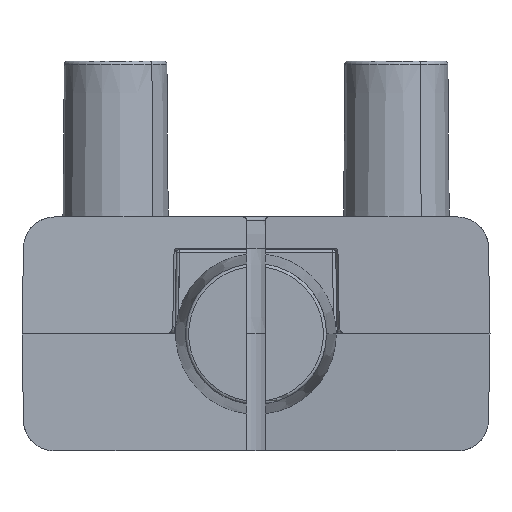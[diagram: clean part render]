
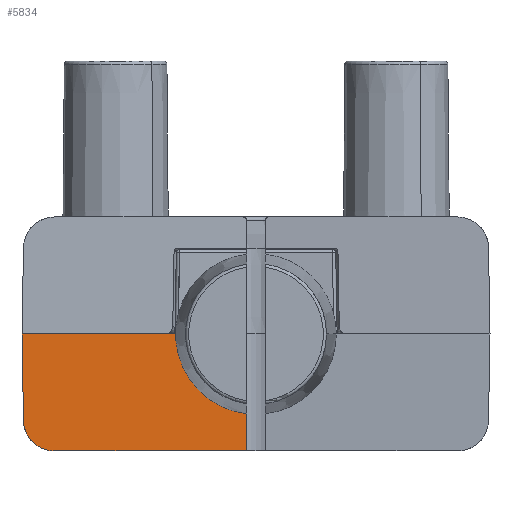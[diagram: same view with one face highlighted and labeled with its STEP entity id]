
A CAD part, front view. The second image highlights one B-rep face of the part: STEP entity #5834.
In plain terms, the highlighted planar face has unit normal (0.067, -0.998, -0.018).
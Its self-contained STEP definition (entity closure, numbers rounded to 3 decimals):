
#186 = VECTOR ( 'NONE', #6421, 1000. ) ;
#465 = VERTEX_POINT ( 'NONE', #7982 ) ;
#690 = ORIENTED_EDGE ( 'NONE', *, *, #2666, .T. ) ;
#724 = VERTEX_POINT ( 'NONE', #8261 ) ;
#756 = EDGE_CURVE ( 'NONE', #5243, #7019, #5901, .T. ) ;
#975 = EDGE_LOOP ( 'NONE', ( #4978, #8475, #2830, #7411, #5114, #6724, #690 ) ) ;
#1378 = FACE_OUTER_BOUND ( 'NONE', #975, .T. ) ;
#1471 = EDGE_CURVE ( 'NONE', #5243, #724, #4717, .T. ) ;
#1550 = EDGE_CURVE ( 'NONE', #8496, #465, #3993, .T. ) ;
#1586 = VECTOR ( 'NONE', #5265, 1000. ) ;
#1587 = PLANE ( 'NONE',  #8654 ) ;
#1643 = CARTESIAN_POINT ( 'NONE',  ( -4.611, -8.515, -2.427 ) ) ;
#1981 = LINE ( 'NONE', #6252, #186 ) ;
#2093 = VERTEX_POINT ( 'NONE', #7079 ) ;
#2119 = LINE ( 'NONE', #3690, #3985 ) ;
#2269 = DIRECTION ( 'NONE',  ( 0., 0.017, -1. ) ) ;
#2456 = DIRECTION ( 'NONE',  ( 0.998, 0.067, 0. ) ) ;
#2666 = EDGE_CURVE ( 'NONE', #2093, #724, #2119, .T. ) ;
#2761 = CARTESIAN_POINT ( 'NONE',  ( -15., -9.25, 0. ) ) ;
#2830 = ORIENTED_EDGE ( 'NONE', *, *, #4461, .F. ) ;
#3504 = EDGE_CURVE ( 'NONE', #465, #8124, #5977, .T. ) ;
#3690 = CARTESIAN_POINT ( 'NONE',  ( -15.009, -9.119, -7.5 ) ) ;
#3855 = CARTESIAN_POINT ( 'NONE',  ( -14.903, -9.147, -5.535 ) ) ;
#3917 = CARTESIAN_POINT ( 'NONE',  ( -15., -9.25, 0. ) ) ;
#3985 = VECTOR ( 'NONE', #8505, 1000. ) ;
#3993 = LINE ( 'NONE', #2761, #7395 ) ;
#4257 = CARTESIAN_POINT ( 'NONE',  ( -4.613, -8.558, 0. ) ) ;
#4336 = CARTESIAN_POINT ( 'NONE',  ( -3.008, -8.376, -4.249 ) ) ;
#4461 = EDGE_CURVE ( 'NONE', #8124, #7019, #1981, .T. ) ;
#4717 = LINE ( 'NONE', #6290, #5993 ) ;
#4978 = ORIENTED_EDGE ( 'NONE', *, *, #1471, .F. ) ;
#5092 = DIRECTION ( 'NONE',  ( 0.067, -0.998, -0.017 ) ) ;
#5114 = ORIENTED_EDGE ( 'NONE', *, *, #1550, .F. ) ;
#5144 =( BOUNDED_CURVE ( )  B_SPLINE_CURVE ( 3, ( #7615, #7530, #6238, #7583 ),
 .UNSPECIFIED., .F., .F. ) 
 B_SPLINE_CURVE_WITH_KNOTS ( ( 4, 4 ),
 ( 0.274, 1.827 ),
 .UNSPECIFIED. ) 
 CURVE ( )  GEOMETRIC_REPRESENTATION_ITEM ( )  RATIONAL_B_SPLINE_CURVE ( ( 1., 0.809, 0.809, 1. ) ) 
 REPRESENTATION_ITEM ( '' )  );
#5167 = CARTESIAN_POINT ( 'NONE',  ( -4.987, -8.582, 0. ) ) ;
#5243 = VERTEX_POINT ( 'NONE', #8391 ) ;
#5265 = DIRECTION ( 'NONE',  ( 0.998, 0.067, 0. ) ) ;
#5834 = ADVANCED_FACE ( 'NONE', ( #1378 ), #1587, .T. ) ;
#5901 =( BOUNDED_CURVE ( )  B_SPLINE_CURVE ( 3, ( #7106, #4336, #1643, #8461 ),
 .UNSPECIFIED., .F., .F. ) 
 B_SPLINE_CURVE_WITH_KNOTS ( ( 4, 4 ),
 ( 1.442, 2.884 ),
 .UNSPECIFIED. ) 
 CURVE ( )  GEOMETRIC_REPRESENTATION_ITEM ( )  RATIONAL_B_SPLINE_CURVE ( ( 1., 0.834, 0.834, 1. ) ) 
 REPRESENTATION_ITEM ( '' )  );
#5977 = LINE ( 'NONE', #3917, #1586 ) ;
#5993 = VECTOR ( 'NONE', #2269, 1000. ) ;
#6238 = CARTESIAN_POINT ( 'NONE',  ( -14.059, -9.056, -7.5 ) ) ;
#6252 = CARTESIAN_POINT ( 'NONE',  ( -15., -9.25, 0. ) ) ;
#6290 = CARTESIAN_POINT ( 'NONE',  ( -0.6, -8.29, 0.017 ) ) ;
#6299 = CARTESIAN_POINT ( 'NONE',  ( -15., -9.25, 0. ) ) ;
#6421 = DIRECTION ( 'NONE',  ( 0.998, 0.067, 0. ) ) ;
#6724 = ORIENTED_EDGE ( 'NONE', *, *, #6945, .T. ) ;
#6945 = EDGE_CURVE ( 'NONE', #8496, #2093, #5144, .T. ) ;
#7019 = VERTEX_POINT ( 'NONE', #4257 ) ;
#7079 = CARTESIAN_POINT ( 'NONE',  ( -12.904, -8.979, -7.5 ) ) ;
#7106 = CARTESIAN_POINT ( 'NONE',  ( -0.6, -8.21, -4.559 ) ) ;
#7395 = VECTOR ( 'NONE', #8207, 1000. ) ;
#7411 = ORIENTED_EDGE ( 'NONE', *, *, #3504, .F. ) ;
#7530 = CARTESIAN_POINT ( 'NONE',  ( -14.883, -9.125, -6.69 ) ) ;
#7583 = CARTESIAN_POINT ( 'NONE',  ( -12.904, -8.979, -7.5 ) ) ;
#7615 = CARTESIAN_POINT ( 'NONE',  ( -14.903, -9.147, -5.535 ) ) ;
#7982 = CARTESIAN_POINT ( 'NONE',  ( -15., -9.25, 0. ) ) ;
#8124 = VERTEX_POINT ( 'NONE', #5167 ) ;
#8207 = DIRECTION ( 'NONE',  ( -0.017, -0.019, 1. ) ) ;
#8261 = CARTESIAN_POINT ( 'NONE',  ( -0.6, -8.159, -7.5 ) ) ;
#8391 = CARTESIAN_POINT ( 'NONE',  ( -0.6, -8.21, -4.559 ) ) ;
#8461 = CARTESIAN_POINT ( 'NONE',  ( -4.613, -8.558, 0. ) ) ;
#8475 = ORIENTED_EDGE ( 'NONE', *, *, #756, .T. ) ;
#8496 = VERTEX_POINT ( 'NONE', #3855 ) ;
#8505 = DIRECTION ( 'NONE',  ( 0.998, 0.067, 0. ) ) ;
#8654 = AXIS2_PLACEMENT_3D ( 'NONE', #6299, #5092, #2456 ) ;
